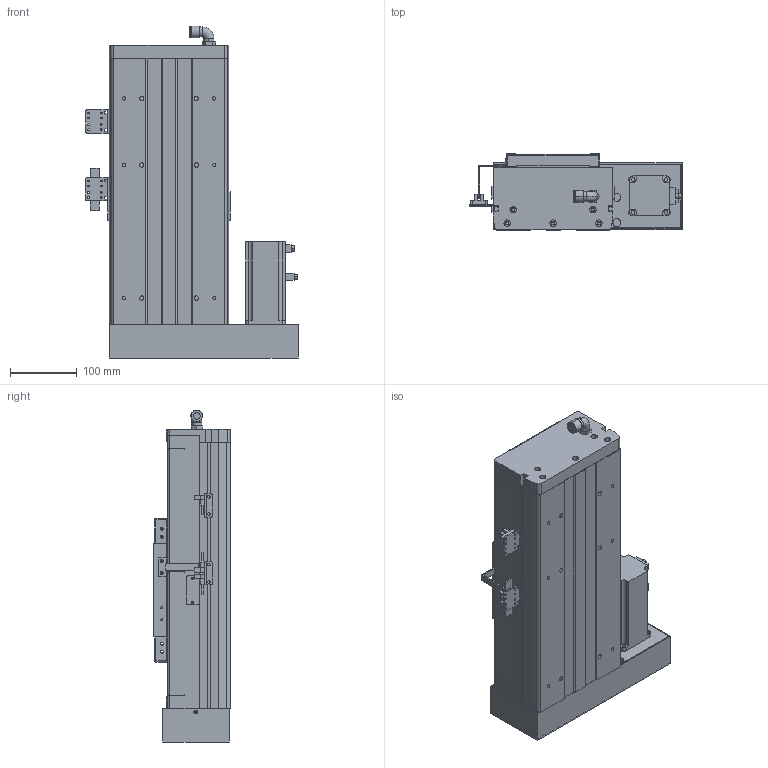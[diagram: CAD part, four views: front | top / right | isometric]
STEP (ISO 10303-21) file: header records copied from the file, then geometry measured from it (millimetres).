
FILE_DESCRIPTION (( 'STEP AP203' ), '1' );
FILE_NAME ('JDBS-180-P -S100L-2L.STEP', '2012-09-11T03:52:42', ( 'USER' ), ( 'SHARE' ), 'SwSTEP 2.0', 'SolidWorks 2007', '' );
FILE_SCHEMA (( 'CONFIG_CONTROL_DESIGN' ));
Length unit declared in the file: millimetre
Products named in the file (1): JDBS-180-P  -S100L-2L
Bounding box: 319 x 116.5 x 498.9 mm (x, y, z)
Volume: 3230773.1 mm3; surface area: 1078165.8 mm2
Topology: 23 solids, 23 shells, 1327 faces, 3627 edges, 2390 vertices
Faces by surface type: cylinder 687, plane 618, cone 12, sphere 8, torus 2
Entity records: 43674 total; most frequent: CARTESIAN_POINT 8217, DIRECTION 7600, ORIENTED_EDGE 7238, EDGE_CURVE 3619, AXIS2_PLACEMENT_3D 2727, VERTEX_POINT 2390, LINE 2146, VECTOR 2146
